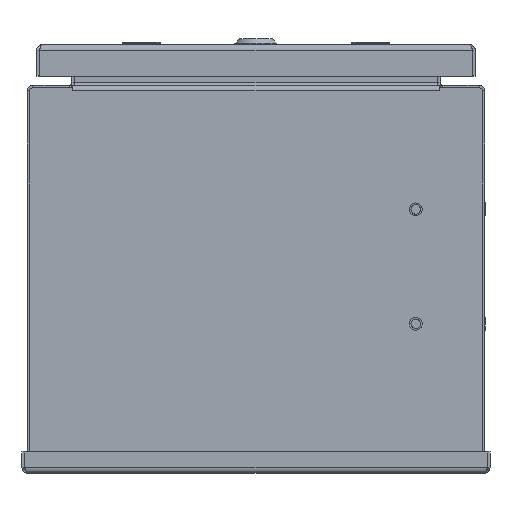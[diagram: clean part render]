
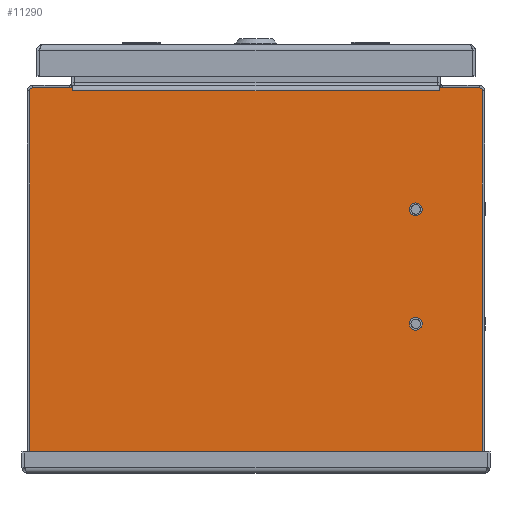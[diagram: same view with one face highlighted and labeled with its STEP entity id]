
A CAD part, front view. The second image highlights one B-rep face of the part: STEP entity #11290.
In plain terms, the highlighted planar face has unit normal (0, -1, 0).
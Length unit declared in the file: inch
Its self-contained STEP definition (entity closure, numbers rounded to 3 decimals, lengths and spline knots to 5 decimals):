
#9953=CARTESIAN_POINT('',(-5.857,0.,4.857));
#9954=DIRECTION('',(0.,-1.,0.));
#9955=DIRECTION('',(0.,0.,1.));
#9956=AXIS2_PLACEMENT_3D('',#9953,#9954,#9955);
#9961=DIRECTION('',(-1.,0.,0.));
#9962=VECTOR('',#9961,1.02894);
#9963=CARTESIAN_POINT('',(-4.82806,0.,4.937));
#9964=LINE('',#9963,#9962);
#9968=DIRECTION('',(0.174,0.,-0.985));
#9969=VECTOR('',#9968,0.08326);
#9970=CARTESIAN_POINT('',(-4.82806,0.,4.937));
#9971=LINE('',#9970,#9969);
#9975=DIRECTION('',(-1.,0.,0.));
#9976=VECTOR('',#9975,0.0156);
#9977=CARTESIAN_POINT('',(-4.798,0.,4.855));
#9978=LINE('',#9977,#9976);
#9982=DIRECTION('',(1.,0.,0.));
#9983=VECTOR('',#9982,0.0156);
#9984=CARTESIAN_POINT('',(4.798,0.,4.855));
#9985=LINE('',#9984,#9983);
#9989=DIRECTION('',(-0.174,0.,-0.985));
#9990=VECTOR('',#9989,0.08326);
#9991=CARTESIAN_POINT('',(4.82806,0.,4.937));
#9992=LINE('',#9991,#9990);
#9996=DIRECTION('',(-1.,0.,0.));
#9997=VECTOR('',#9996,1.02894);
#9998=CARTESIAN_POINT('',(5.857,0.,4.937));
#9999=LINE('',#9998,#9997);
#10003=CARTESIAN_POINT('',(5.857,0.,4.857));
#10004=DIRECTION('',(0.,-1.,0.));
#10005=DIRECTION('',(1.,0.,0.));
#10006=AXIS2_PLACEMENT_3D('',#10003,#10004,#10005);
#10011=DIRECTION('',(0.,0.,1.));
#10012=VECTOR('',#10011,9.714);
#10013=CARTESIAN_POINT('',(5.937,0.,-4.857));
#10014=LINE('',#10013,#10012);
#10018=CARTESIAN_POINT('',(5.857,0.,-4.857));
#10019=DIRECTION('',(0.,-1.,0.));
#10020=DIRECTION('',(0.,0.,-1.));
#10021=AXIS2_PLACEMENT_3D('',#10018,#10019,#10020);
#10026=DIRECTION('',(1.,0.,0.));
#10027=VECTOR('',#10026,11.714);
#10028=CARTESIAN_POINT('',(-5.857,0.,-4.937));
#10029=LINE('',#10028,#10027);
#10033=CARTESIAN_POINT('',(-5.857,0.,-4.857));
#10034=DIRECTION('',(0.,-1.,0.));
#10035=DIRECTION('',(-1.,0.,0.));
#10036=AXIS2_PLACEMENT_3D('',#10033,#10034,#10035);
#10041=DIRECTION('',(0.,0.,-1.));
#10042=VECTOR('',#10041,9.714);
#10043=CARTESIAN_POINT('',(-5.937,0.,4.857));
#10044=LINE('',#10043,#10042);
#10048=CARTESIAN_POINT('',(4.1875,0.,1.75));
#10049=DIRECTION('',(0.,1.,0.));
#10050=DIRECTION('',(0.,0.,-1.));
#10051=AXIS2_PLACEMENT_3D('',#10048,#10049,#10050);
#10056=CARTESIAN_POINT('',(4.1875,0.,1.75));
#10057=DIRECTION('',(0.,1.,0.));
#10058=DIRECTION('',(0.,0.,1.));
#10059=AXIS2_PLACEMENT_3D('',#10056,#10057,#10058);
#10064=CARTESIAN_POINT('',(4.1875,0.,-1.25));
#10065=DIRECTION('',(0.,1.,0.));
#10066=DIRECTION('',(0.,0.,-1.));
#10067=AXIS2_PLACEMENT_3D('',#10064,#10065,#10066);
#10072=CARTESIAN_POINT('',(4.1875,0.,-1.25));
#10073=DIRECTION('',(0.,1.,0.));
#10074=DIRECTION('',(0.,0.,1.));
#10075=AXIS2_PLACEMENT_3D('',#10072,#10073,#10074);
#10386=DIRECTION('',(1.,0.,0.));
#10387=VECTOR('',#10386,9.596);
#10388=CARTESIAN_POINT('',(-4.798,0.,4.855));
#10389=LINE('',#10388,#10387);
#11075=CARTESIAN_POINT('',(4.798,0.,4.855));
#11076=CARTESIAN_POINT('',(4.8136,0.,4.855));
#11077=VERTEX_POINT('',#11075);
#11078=VERTEX_POINT('',#11076);
#11079=CARTESIAN_POINT('',(4.82806,0.,4.937));
#11080=VERTEX_POINT('',#11079);
#11087=CARTESIAN_POINT('',(-4.798,0.,4.855));
#11088=CARTESIAN_POINT('',(-4.8136,0.,4.855));
#11089=VERTEX_POINT('',#11087);
#11090=VERTEX_POINT('',#11088);
#11091=CARTESIAN_POINT('',(-4.82806,0.,4.937));
#11092=VERTEX_POINT('',#11091);
#11151=CARTESIAN_POINT('',(-5.857,0.,4.937));
#11152=CARTESIAN_POINT('',(-5.937,0.,4.857));
#11153=VERTEX_POINT('',#11151);
#11154=VERTEX_POINT('',#11152);
#11159=CARTESIAN_POINT('',(-5.937,0.,-4.857));
#11160=CARTESIAN_POINT('',(-5.857,0.,-4.937));
#11161=VERTEX_POINT('',#11159);
#11162=VERTEX_POINT('',#11160);
#11167=CARTESIAN_POINT('',(5.857,0.,-4.937));
#11168=CARTESIAN_POINT('',(5.937,0.,-4.857));
#11169=VERTEX_POINT('',#11167);
#11170=VERTEX_POINT('',#11168);
#11175=CARTESIAN_POINT('',(5.937,0.,4.857));
#11176=CARTESIAN_POINT('',(5.857,0.,4.937));
#11177=VERTEX_POINT('',#11175);
#11178=VERTEX_POINT('',#11176);
#11227=CARTESIAN_POINT('',(4.1875,0.,1.62495));
#11228=CARTESIAN_POINT('',(4.1875,0.,1.87505));
#11229=VERTEX_POINT('',#11227);
#11230=VERTEX_POINT('',#11228);
#11231=CARTESIAN_POINT('',(4.1875,0.,-1.37505));
#11232=CARTESIAN_POINT('',(4.1875,0.,-1.12495));
#11233=VERTEX_POINT('',#11231);
#11234=VERTEX_POINT('',#11232);
#11243=CARTESIAN_POINT('',(0.,0.,0.));
#11244=DIRECTION('',(0.,-1.,0.));
#11245=DIRECTION('',(-1.,0.,0.));
#11246=AXIS2_PLACEMENT_3D('',#11243,#11244,#11245);
#11247=PLANE('',#11246);
#11249=ORIENTED_EDGE('',*,*,#11248,.F.);
#11251=ORIENTED_EDGE('',*,*,#11250,.F.);
#11253=ORIENTED_EDGE('',*,*,#11252,.T.);
#11255=ORIENTED_EDGE('',*,*,#11254,.F.);
#11257=ORIENTED_EDGE('',*,*,#11256,.T.);
#11259=ORIENTED_EDGE('',*,*,#11258,.T.);
#11261=ORIENTED_EDGE('',*,*,#11260,.F.);
#11263=ORIENTED_EDGE('',*,*,#11262,.F.);
#11265=ORIENTED_EDGE('',*,*,#11264,.F.);
#11267=ORIENTED_EDGE('',*,*,#11266,.F.);
#11269=ORIENTED_EDGE('',*,*,#11268,.F.);
#11271=ORIENTED_EDGE('',*,*,#11270,.F.);
#11273=ORIENTED_EDGE('',*,*,#11272,.F.);
#11275=ORIENTED_EDGE('',*,*,#11274,.F.);
#11276=EDGE_LOOP('',(#11249,#11251,#11253,#11255,#11257,#11259,#11261,#11263,
#11265,#11267,#11269,#11271,#11273,#11275));
#11277=FACE_OUTER_BOUND('',#11276,.F.);
#11279=ORIENTED_EDGE('',*,*,#11278,.F.);
#11281=ORIENTED_EDGE('',*,*,#11280,.F.);
#11282=EDGE_LOOP('',(#11279,#11281));
#11283=FACE_BOUND('',#11282,.F.);
#11285=ORIENTED_EDGE('',*,*,#11284,.F.);
#11287=ORIENTED_EDGE('',*,*,#11286,.F.);
#11288=EDGE_LOOP('',(#11285,#11287));
#11289=FACE_BOUND('',#11288,.F.);
#9957=CIRCLE('',#9956,0.08);
#10007=CIRCLE('',#10006,0.08);
#10022=CIRCLE('',#10021,0.08);
#10037=CIRCLE('',#10036,0.08);
#10052=CIRCLE('',#10051,0.12505);
#10060=CIRCLE('',#10059,0.12505);
#10068=CIRCLE('',#10067,0.12505);
#10076=CIRCLE('',#10075,0.12505);
#11248=EDGE_CURVE('',#11153,#11154,#9957,.T.);
#11250=EDGE_CURVE('',#11092,#11153,#9964,.T.);
#11252=EDGE_CURVE('',#11092,#11090,#9971,.T.);
#11254=EDGE_CURVE('',#11089,#11090,#9978,.T.);
#11256=EDGE_CURVE('',#11089,#11077,#10389,.T.);
#11258=EDGE_CURVE('',#11077,#11078,#9985,.T.);
#11260=EDGE_CURVE('',#11080,#11078,#9992,.T.);
#11262=EDGE_CURVE('',#11178,#11080,#9999,.T.);
#11264=EDGE_CURVE('',#11177,#11178,#10007,.T.);
#11266=EDGE_CURVE('',#11170,#11177,#10014,.T.);
#11268=EDGE_CURVE('',#11169,#11170,#10022,.T.);
#11270=EDGE_CURVE('',#11162,#11169,#10029,.T.);
#11272=EDGE_CURVE('',#11161,#11162,#10037,.T.);
#11274=EDGE_CURVE('',#11154,#11161,#10044,.T.);
#11278=EDGE_CURVE('',#11229,#11230,#10052,.T.);
#11280=EDGE_CURVE('',#11230,#11229,#10060,.T.);
#11284=EDGE_CURVE('',#11233,#11234,#10068,.T.);
#11286=EDGE_CURVE('',#11234,#11233,#10076,.T.);
#11290=ADVANCED_FACE('',(#11277,#11283,#11289),#11247,.T.);
